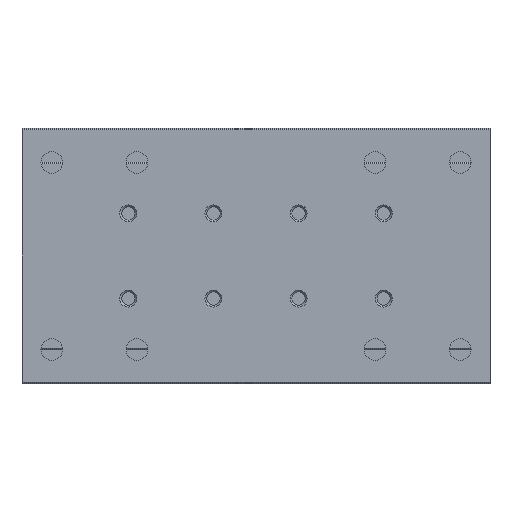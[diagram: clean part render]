
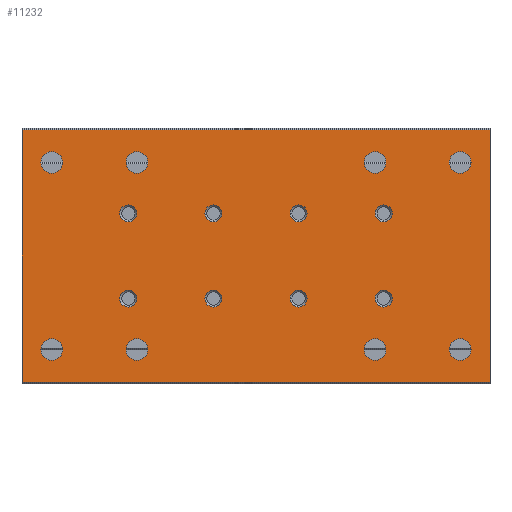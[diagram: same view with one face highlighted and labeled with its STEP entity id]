
A CAD part, front view. The second image highlights one B-rep face of the part: STEP entity #11232.
In plain terms, the highlighted planar face has unit normal (0, -1, 0).
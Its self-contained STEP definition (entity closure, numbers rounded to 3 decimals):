
#386=CIRCLE('',#11912,1.);
#387=CIRCLE('',#11913,1.);
#388=CIRCLE('',#11914,1.);
#389=CIRCLE('',#11915,1.);
#390=CIRCLE('',#11916,1.);
#391=CIRCLE('',#11917,1.);
#392=CIRCLE('',#11918,1.);
#393=CIRCLE('',#11919,1.);
#394=CIRCLE('',#11920,1.275);
#395=CIRCLE('',#11921,1.275);
#396=CIRCLE('',#11922,1.275);
#397=CIRCLE('',#11923,1.275);
#398=CIRCLE('',#11924,1.275);
#399=CIRCLE('',#11925,1.275);
#400=CIRCLE('',#11926,1.275);
#401=CIRCLE('',#11927,1.275);
#1150=ORIENTED_EDGE('',*,*,#4535,.F.);
#1151=ORIENTED_EDGE('',*,*,#4536,.F.);
#1152=ORIENTED_EDGE('',*,*,#4537,.F.);
#1153=ORIENTED_EDGE('',*,*,#4538,.F.);
#1154=ORIENTED_EDGE('',*,*,#4539,.F.);
#1155=ORIENTED_EDGE('',*,*,#4540,.F.);
#1156=ORIENTED_EDGE('',*,*,#4541,.F.);
#1157=ORIENTED_EDGE('',*,*,#4542,.F.);
#1158=ORIENTED_EDGE('',*,*,#4543,.F.);
#1159=ORIENTED_EDGE('',*,*,#4544,.F.);
#1160=ORIENTED_EDGE('',*,*,#4545,.F.);
#1161=ORIENTED_EDGE('',*,*,#4546,.F.);
#1162=ORIENTED_EDGE('',*,*,#4547,.T.);
#1163=ORIENTED_EDGE('',*,*,#4548,.F.);
#1164=ORIENTED_EDGE('',*,*,#4549,.F.);
#1165=ORIENTED_EDGE('',*,*,#4550,.F.);
#1166=ORIENTED_EDGE('',*,*,#4509,.T.);
#1167=ORIENTED_EDGE('',*,*,#4551,.F.);
#1168=ORIENTED_EDGE('',*,*,#4552,.F.);
#1169=ORIENTED_EDGE('',*,*,#4533,.T.);
#4509=EDGE_CURVE('',#6204,#6203,#7359,.T.);
#4533=EDGE_CURVE('',#6226,#6204,#7383,.T.);
#4535=EDGE_CURVE('',#6227,#6227,#386,.T.);
#4536=EDGE_CURVE('',#6228,#6228,#387,.T.);
#4537=EDGE_CURVE('',#6229,#6229,#388,.T.);
#4538=EDGE_CURVE('',#6230,#6230,#389,.T.);
#4539=EDGE_CURVE('',#6231,#6231,#390,.T.);
#4540=EDGE_CURVE('',#6232,#6232,#391,.T.);
#4541=EDGE_CURVE('',#6233,#6233,#392,.T.);
#4542=EDGE_CURVE('',#6234,#6234,#393,.T.);
#4543=EDGE_CURVE('',#6235,#6235,#394,.T.);
#4544=EDGE_CURVE('',#6236,#6236,#395,.T.);
#4545=EDGE_CURVE('',#6237,#6237,#396,.T.);
#4546=EDGE_CURVE('',#6238,#6238,#397,.T.);
#4547=EDGE_CURVE('',#6239,#6239,#398,.T.);
#4548=EDGE_CURVE('',#6240,#6240,#399,.T.);
#4549=EDGE_CURVE('',#6241,#6241,#400,.T.);
#4550=EDGE_CURVE('',#6242,#6242,#401,.T.);
#4551=EDGE_CURVE('',#6243,#6203,#7385,.T.);
#4552=EDGE_CURVE('',#6226,#6243,#7386,.T.);
#6203=VERTEX_POINT('',#17040);
#6204=VERTEX_POINT('',#17042);
#6226=VERTEX_POINT('',#17091);
#6227=VERTEX_POINT('',#17095);
#6228=VERTEX_POINT('',#17097);
#6229=VERTEX_POINT('',#17099);
#6230=VERTEX_POINT('',#17101);
#6231=VERTEX_POINT('',#17103);
#6232=VERTEX_POINT('',#17105);
#6233=VERTEX_POINT('',#17107);
#6234=VERTEX_POINT('',#17109);
#6235=VERTEX_POINT('',#17111);
#6236=VERTEX_POINT('',#17113);
#6237=VERTEX_POINT('',#17115);
#6238=VERTEX_POINT('',#17117);
#6239=VERTEX_POINT('',#17119);
#6240=VERTEX_POINT('',#17121);
#6241=VERTEX_POINT('',#17123);
#6242=VERTEX_POINT('',#17125);
#6243=VERTEX_POINT('',#17127);
#7359=LINE('',#17041,#8373);
#7383=LINE('',#17090,#8397);
#7385=LINE('',#17126,#8399);
#7386=LINE('',#17128,#8400);
#8373=VECTOR('',#13308,1000.);
#8397=VECTOR('',#13338,1000.);
#8399=VECTOR('',#13374,1000.);
#8400=VECTOR('',#13375,1000.);
#9343=EDGE_LOOP('',(#1150));
#9344=EDGE_LOOP('',(#1151));
#9345=EDGE_LOOP('',(#1152));
#9346=EDGE_LOOP('',(#1153));
#9347=EDGE_LOOP('',(#1154));
#9348=EDGE_LOOP('',(#1155));
#9349=EDGE_LOOP('',(#1156));
#9350=EDGE_LOOP('',(#1157));
#9351=EDGE_LOOP('',(#1158));
#9352=EDGE_LOOP('',(#1159));
#9353=EDGE_LOOP('',(#1160));
#9354=EDGE_LOOP('',(#1161));
#9355=EDGE_LOOP('',(#1162));
#9356=EDGE_LOOP('',(#1163));
#9357=EDGE_LOOP('',(#1164));
#9358=EDGE_LOOP('',(#1165));
#9359=EDGE_LOOP('',(#1166,#1167,#1168,#1169));
#10139=FACE_BOUND('',#9343,.T.);
#10140=FACE_BOUND('',#9344,.T.);
#10141=FACE_BOUND('',#9345,.T.);
#10142=FACE_BOUND('',#9346,.T.);
#10143=FACE_BOUND('',#9347,.T.);
#10144=FACE_BOUND('',#9348,.T.);
#10145=FACE_BOUND('',#9349,.T.);
#10146=FACE_BOUND('',#9350,.T.);
#10147=FACE_BOUND('',#9351,.T.);
#10148=FACE_BOUND('',#9352,.T.);
#10149=FACE_BOUND('',#9353,.T.);
#10150=FACE_BOUND('',#9354,.T.);
#10151=FACE_BOUND('',#9355,.T.);
#10152=FACE_BOUND('',#9356,.T.);
#10153=FACE_BOUND('',#9357,.T.);
#10154=FACE_BOUND('',#9358,.T.);
#10155=FACE_BOUND('',#9359,.T.);
#10935=PLANE('',#11911);
#11232=ADVANCED_FACE('',(#10139,#10140,#10141,#10142,#10143,#10144,#10145,
#10146,#10147,#10148,#10149,#10150,#10151,#10152,#10153,#10154,#10155),
#10935,.F.);
#11911=AXIS2_PLACEMENT_3D('',#17093,#13340,#13341);
#11912=AXIS2_PLACEMENT_3D('',#17094,#13342,#13343);
#11913=AXIS2_PLACEMENT_3D('',#17096,#13344,#13345);
#11914=AXIS2_PLACEMENT_3D('',#17098,#13346,#13347);
#11915=AXIS2_PLACEMENT_3D('',#17100,#13348,#13349);
#11916=AXIS2_PLACEMENT_3D('',#17102,#13350,#13351);
#11917=AXIS2_PLACEMENT_3D('',#17104,#13352,#13353);
#11918=AXIS2_PLACEMENT_3D('',#17106,#13354,#13355);
#11919=AXIS2_PLACEMENT_3D('',#17108,#13356,#13357);
#11920=AXIS2_PLACEMENT_3D('',#17110,#13358,#13359);
#11921=AXIS2_PLACEMENT_3D('',#17112,#13360,#13361);
#11922=AXIS2_PLACEMENT_3D('',#17114,#13362,#13363);
#11923=AXIS2_PLACEMENT_3D('',#17116,#13364,#13365);
#11924=AXIS2_PLACEMENT_3D('',#17118,#13366,#13367);
#11925=AXIS2_PLACEMENT_3D('',#17120,#13368,#13369);
#11926=AXIS2_PLACEMENT_3D('',#17122,#13370,#13371);
#11927=AXIS2_PLACEMENT_3D('',#17124,#13372,#13373);
#13308=DIRECTION('',(0.,0.,-1.));
#13338=DIRECTION('',(-1.,0.,0.));
#13340=DIRECTION('',(0.,1.,0.));
#13341=DIRECTION('',(0.,0.,1.));
#13342=DIRECTION('',(0.,-1.,0.));
#13343=DIRECTION('',(0.,0.,-1.));
#13344=DIRECTION('',(0.,-1.,0.));
#13345=DIRECTION('',(0.,0.,-1.));
#13346=DIRECTION('',(0.,-1.,0.));
#13347=DIRECTION('',(0.,0.,-1.));
#13348=DIRECTION('',(0.,-1.,0.));
#13349=DIRECTION('',(0.,0.,-1.));
#13350=DIRECTION('',(0.,-1.,0.));
#13351=DIRECTION('',(0.,0.,-1.));
#13352=DIRECTION('',(0.,-1.,0.));
#13353=DIRECTION('',(0.,0.,-1.));
#13354=DIRECTION('',(0.,-1.,0.));
#13355=DIRECTION('',(0.,0.,-1.));
#13356=DIRECTION('',(0.,-1.,0.));
#13357=DIRECTION('',(0.,0.,-1.));
#13358=DIRECTION('',(0.,-1.,0.));
#13359=DIRECTION('',(0.,0.,-1.));
#13360=DIRECTION('',(0.,-1.,0.));
#13361=DIRECTION('',(0.,0.,-1.));
#13362=DIRECTION('',(0.,-1.,0.));
#13363=DIRECTION('',(0.,0.,-1.));
#13364=DIRECTION('',(0.,-1.,0.));
#13365=DIRECTION('',(0.,0.,-1.));
#13366=DIRECTION('',(0.,1.,0.));
#13367=DIRECTION('',(0.,0.,1.));
#13368=DIRECTION('',(0.,-1.,0.));
#13369=DIRECTION('',(0.,0.,-1.));
#13370=DIRECTION('',(0.,-1.,0.));
#13371=DIRECTION('',(0.,0.,-1.));
#13372=DIRECTION('',(0.,-1.,0.));
#13373=DIRECTION('',(0.,0.,-1.));
#13374=DIRECTION('',(-1.,0.,0.));
#13375=DIRECTION('',(0.,0.,-1.));
#17040=CARTESIAN_POINT('',(0.,0.,-14.85));
#17041=CARTESIAN_POINT('',(0.,0.,14.85));
#17042=CARTESIAN_POINT('',(0.,0.,14.85));
#17090=CARTESIAN_POINT('',(55.,0.,14.85));
#17091=CARTESIAN_POINT('',(55.,0.,14.85));
#17093=CARTESIAN_POINT('',(55.,0.,14.85));
#17094=CARTESIAN_POINT('',(12.5,0.,-5.));
#17095=CARTESIAN_POINT('',(12.5,0.,-6.));
#17096=CARTESIAN_POINT('',(12.5,0.,5.));
#17097=CARTESIAN_POINT('',(12.5,0.,4.));
#17098=CARTESIAN_POINT('',(42.5,0.,-5.));
#17099=CARTESIAN_POINT('',(42.5,0.,-6.));
#17100=CARTESIAN_POINT('',(42.5,0.,5.));
#17101=CARTESIAN_POINT('',(42.5,0.,4.));
#17102=CARTESIAN_POINT('',(32.5,0.,-5.));
#17103=CARTESIAN_POINT('',(32.5,0.,-6.));
#17104=CARTESIAN_POINT('',(32.5,0.,5.));
#17105=CARTESIAN_POINT('',(32.5,0.,4.));
#17106=CARTESIAN_POINT('',(22.5,0.,-5.));
#17107=CARTESIAN_POINT('',(22.5,0.,-6.));
#17108=CARTESIAN_POINT('',(22.5,0.,5.));
#17109=CARTESIAN_POINT('',(22.5,0.,4.));
#17110=CARTESIAN_POINT('',(41.5,0.,11.));
#17111=CARTESIAN_POINT('',(41.5,0.,9.725));
#17112=CARTESIAN_POINT('',(41.5,0.,-11.));
#17113=CARTESIAN_POINT('',(41.5,0.,-12.275));
#17114=CARTESIAN_POINT('',(13.5,0.,11.));
#17115=CARTESIAN_POINT('',(13.5,0.,9.725));
#17116=CARTESIAN_POINT('',(13.5,0.,-11.));
#17117=CARTESIAN_POINT('',(13.5,0.,-12.275));
#17118=CARTESIAN_POINT('',(51.5,0.,11.));
#17119=CARTESIAN_POINT('',(51.5,0.,12.275));
#17120=CARTESIAN_POINT('',(51.5,0.,-11.));
#17121=CARTESIAN_POINT('',(51.5,0.,-12.275));
#17122=CARTESIAN_POINT('',(3.5,0.,-11.));
#17123=CARTESIAN_POINT('',(3.5,0.,-12.275));
#17124=CARTESIAN_POINT('',(3.5,0.,11.));
#17125=CARTESIAN_POINT('',(3.5,0.,9.725));
#17126=CARTESIAN_POINT('',(55.,0.,-14.85));
#17127=CARTESIAN_POINT('',(55.,0.,-14.85));
#17128=CARTESIAN_POINT('',(55.,0.,14.85));
